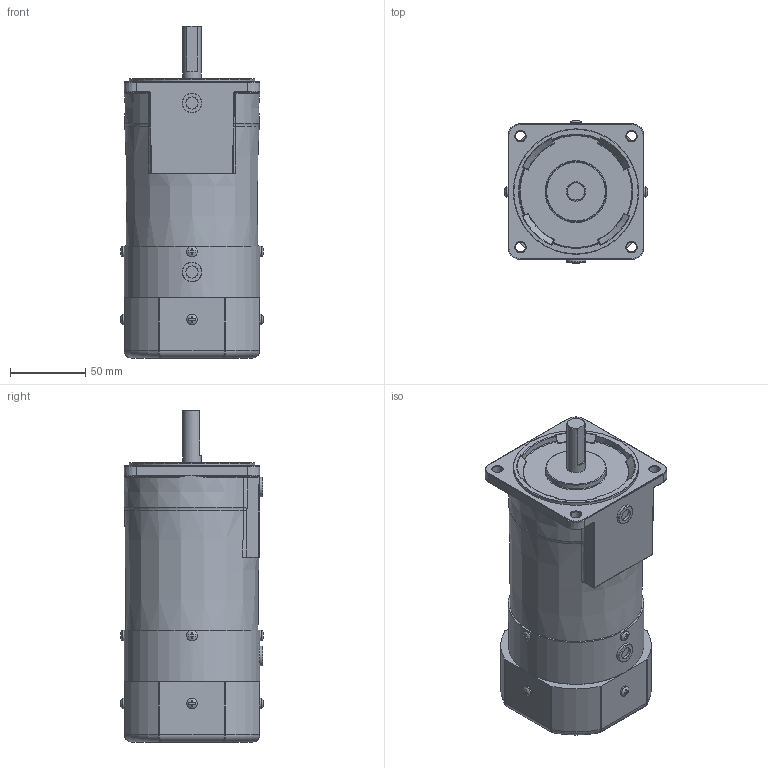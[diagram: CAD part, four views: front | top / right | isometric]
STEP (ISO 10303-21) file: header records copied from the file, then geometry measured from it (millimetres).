
FILE_DESCRIPTION (( 'STEP AP214' ), '1' );
FILE_NAME ('9BDD¤±-90F.STEP', '2025-01-13T07:48:46', ( '' ), ( '' ), 'SwSTEP 2.0', 'SolidWorks 2024', '' );
FILE_SCHEMA (( 'AUTOMOTIVE_DESIGN' ));
Length unit declared in the file: millimetre
Products named in the file (1): 9BDDㅁ-90F
Bounding box: 95.09 x 95.09 x 220 mm (x, y, z)
Volume: 1198234.9 mm3; surface area: 75767.2 mm2
Topology: 1 solids, 1 shells, 468 faces, 1199 edges, 752 vertices
Faces by surface type: plane 201, cylinder 144, bspline 40, torus 40, cone 33, sphere 10
Full cylindrical faces by diameter (mm): 6.1 x1, 6.5 x4, 7 x8, 8 x2, 12 x1, 13 x3, 83.1 x1, 90 x1
Entity records: 15548 total; most frequent: CARTESIAN_POINT 4819, ORIENTED_EDGE 2212, DIRECTION 2187, EDGE_CURVE 1106, AXIS2_PLACEMENT_3D 850, VERTEX_POINT 730, EDGE_LOOP 566, FACE_OUTER_BOUND 502
